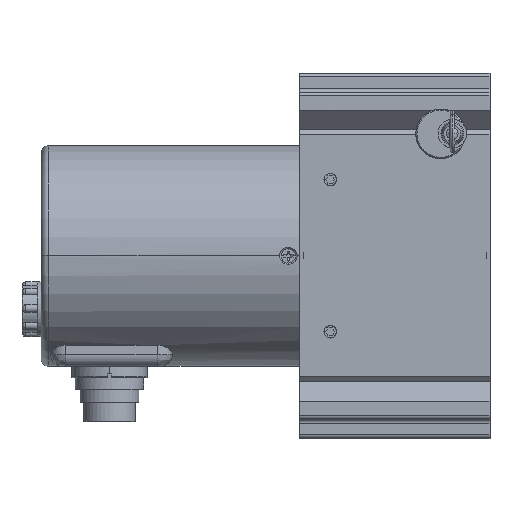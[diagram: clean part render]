
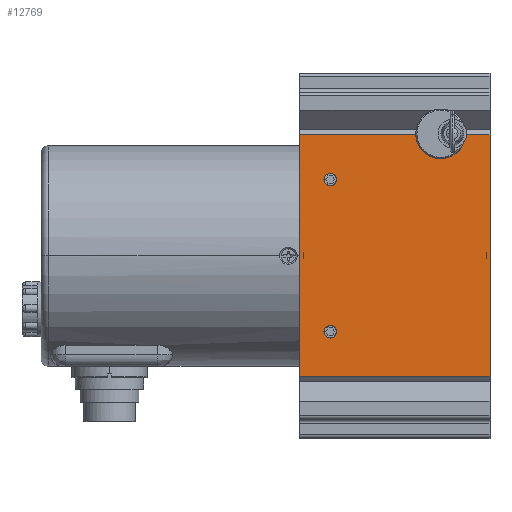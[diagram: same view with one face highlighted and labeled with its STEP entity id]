
A CAD part, top view. The second image highlights one B-rep face of the part: STEP entity #12769.
In plain terms, the highlighted planar face has unit normal (0, 0, 1).
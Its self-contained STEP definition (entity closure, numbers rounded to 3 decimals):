
#1780=DIRECTION('',(0.,-1.,0.));
#1781=VECTOR('',#1780,63.5);
#1782=CARTESIAN_POINT('',(-48.,31.75,48.));
#1783=LINE('',#1782,#1781);
#2996=DIRECTION('',(1.,0.,0.));
#2997=VECTOR('',#2996,50.);
#2998=CARTESIAN_POINT('',(-48.,-31.75,48.));
#2999=LINE('',#2998,#2997);
#3004=CARTESIAN_POINT('',(-40.,20.,48.));
#3005=DIRECTION('',(0.,0.,1.));
#3006=DIRECTION('',(0.,1.,0.));
#3007=AXIS2_PLACEMENT_3D('',#3004,#3005,#3006);
#3009=CARTESIAN_POINT('',(-40.,20.,48.));
#3010=DIRECTION('',(0.,0.,1.));
#3011=DIRECTION('',(0.,-1.,0.));
#3012=AXIS2_PLACEMENT_3D('',#3009,#3010,#3011);
#3014=CARTESIAN_POINT('',(-40.,-20.,48.));
#3015=DIRECTION('',(0.,0.,1.));
#3016=DIRECTION('',(0.,1.,0.));
#3017=AXIS2_PLACEMENT_3D('',#3014,#3015,#3016);
#3019=CARTESIAN_POINT('',(-40.,-20.,48.));
#3020=DIRECTION('',(0.,0.,1.));
#3021=DIRECTION('',(0.,-1.,0.));
#3022=AXIS2_PLACEMENT_3D('',#3019,#3020,#3021);
#3024=DIRECTION('',(1.,0.,0.));
#3025=VECTOR('',#3024,6.505);
#3026=CARTESIAN_POINT('',(-4.505,31.75,48.));
#3027=LINE('',#3026,#3025);
#3028=DIRECTION('',(0.,-1.,0.));
#3029=VECTOR('',#3028,63.5);
#3030=CARTESIAN_POINT('',(2.,31.75,48.));
#3031=LINE('',#3030,#3029);
#3032=DIRECTION('',(1.,0.,0.));
#3033=VECTOR('',#3032,30.505);
#3034=CARTESIAN_POINT('',(-48.,31.75,48.));
#3035=LINE('',#3034,#3033);
#3036=CARTESIAN_POINT('',(-11.,32.,48.));
#3037=DIRECTION('',(0.,0.,1.));
#3038=DIRECTION('',(-0.999,-0.038,0.));
#3039=AXIS2_PLACEMENT_3D('',#3036,#3037,#3038);
#3041=CARTESIAN_POINT('',(-11.,32.,48.));
#3042=DIRECTION('',(0.,0.,1.));
#3043=DIRECTION('',(-0.999,-0.049,0.));
#3044=AXIS2_PLACEMENT_3D('',#3041,#3042,#3043);
#7284=CARTESIAN_POINT('',(-48.,31.75,48.));
#7285=VERTEX_POINT('',#7284);
#7286=CARTESIAN_POINT('',(-48.,-31.75,48.));
#7287=VERTEX_POINT('',#7286);
#7424=CARTESIAN_POINT('',(2.,-31.75,48.));
#7425=VERTEX_POINT('',#7424);
#7426=CARTESIAN_POINT('',(2.,31.75,48.));
#7427=VERTEX_POINT('',#7426);
#7540=CARTESIAN_POINT('',(-40.,21.65,48.));
#7541=CARTESIAN_POINT('',(-40.,18.35,48.));
#7542=VERTEX_POINT('',#7540);
#7543=VERTEX_POINT('',#7541);
#7544=CARTESIAN_POINT('',(-40.,-18.35,48.));
#7545=CARTESIAN_POINT('',(-40.,-21.65,48.));
#7546=VERTEX_POINT('',#7544);
#7547=VERTEX_POINT('',#7545);
#7837=CARTESIAN_POINT('',(-17.495,31.75,48.));
#7838=CARTESIAN_POINT('',(-17.492,31.681,48.));
#7839=VERTEX_POINT('',#7837);
#7840=VERTEX_POINT('',#7838);
#7841=CARTESIAN_POINT('',(-4.505,31.75,48.));
#7842=VERTEX_POINT('',#7841);
#12739=CARTESIAN_POINT('',(-48.,-43.,48.));
#12740=DIRECTION('',(0.,0.,1.));
#12741=DIRECTION('',(0.,1.,0.));
#12742=AXIS2_PLACEMENT_3D('',#12739,#12740,#12741);
#12743=PLANE('',#12742);
#12745=ORIENTED_EDGE('',*,*,#12744,.T.);
#12746=ORIENTED_EDGE('',*,*,#11600,.T.);
#12747=ORIENTED_EDGE('',*,*,#12732,.F.);
#12748=ORIENTED_EDGE('',*,*,#11214,.F.);
#12750=ORIENTED_EDGE('',*,*,#12749,.T.);
#12752=ORIENTED_EDGE('',*,*,#12751,.T.);
#12754=ORIENTED_EDGE('',*,*,#12753,.T.);
#12755=EDGE_LOOP('',(#12745,#12746,#12747,#12748,#12750,#12752,#12754));
#12756=FACE_OUTER_BOUND('',#12755,.F.);
#12758=ORIENTED_EDGE('',*,*,#12757,.T.);
#12760=ORIENTED_EDGE('',*,*,#12759,.T.);
#12761=EDGE_LOOP('',(#12758,#12760));
#12762=FACE_BOUND('',#12761,.F.);
#12764=ORIENTED_EDGE('',*,*,#12763,.T.);
#12766=ORIENTED_EDGE('',*,*,#12765,.T.);
#12767=EDGE_LOOP('',(#12764,#12766));
#12768=FACE_BOUND('',#12767,.F.);
#12769=ADVANCED_FACE('',(#12756,#12762,#12768),#12743,.T.);
#3008=CIRCLE('',#3007,1.65);
#3013=CIRCLE('',#3012,1.65);
#3018=CIRCLE('',#3017,1.65);
#3023=CIRCLE('',#3022,1.65);
#3040=CIRCLE('',#3039,6.5);
#3045=CIRCLE('',#3044,6.5);
#11214=EDGE_CURVE('',#7285,#7287,#1783,.T.);
#11600=EDGE_CURVE('',#7427,#7425,#3031,.T.);
#12732=EDGE_CURVE('',#7287,#7425,#2999,.T.);
#12744=EDGE_CURVE('',#7842,#7427,#3027,.T.);
#12749=EDGE_CURVE('',#7285,#7839,#3035,.T.);
#12751=EDGE_CURVE('',#7839,#7840,#3040,.T.);
#12753=EDGE_CURVE('',#7840,#7842,#3045,.T.);
#12757=EDGE_CURVE('',#7542,#7543,#3008,.T.);
#12759=EDGE_CURVE('',#7543,#7542,#3013,.T.);
#12763=EDGE_CURVE('',#7546,#7547,#3018,.T.);
#12765=EDGE_CURVE('',#7547,#7546,#3023,.T.);
